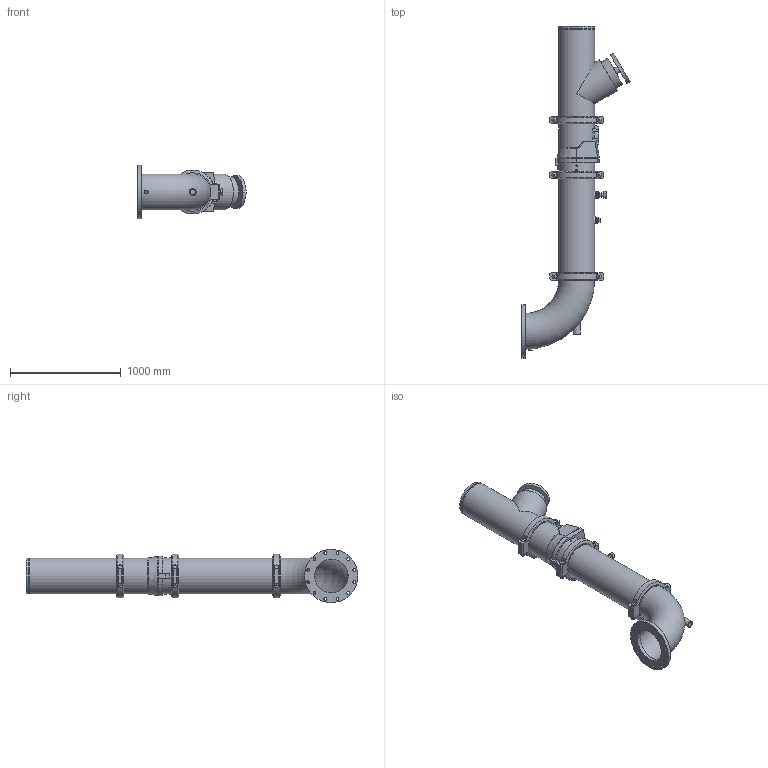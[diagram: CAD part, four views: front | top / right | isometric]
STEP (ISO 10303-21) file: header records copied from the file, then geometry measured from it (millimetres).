
FILE_DESCRIPTION(/* description */ ('VIC DVI PUMP DROP HORZ S/383 (OGSxFLG) (S/924-1.25)','CAx-IF Rec.Pracs.---Representation and Presentation of Product Manufacturing Information (PMI)---4.0---2014-10-13'),/* implementation_level */ '2;1');
FILE_NAME(/* name */ 'C:\Users\Vjadhav\AppData\Roaming\Autodesk\ApplicationPlugins\Victaulic.Temp\A892\Victaulic_IPS_Horizontal DVI_CL 150_Series 383 (OGSxFLG)_924 (1.25)_12.0x12.0 (300x300).stp',/* time_stamp */ '2022-02-28T15:46:33+05:00',/* author */ ('kkamble'),/* organization */ ('Victaulic'),/* preprocessor_version */ 'ST-DEVELOPER v17.2',/* originating_system */ 'Autodesk Inventor 2019',/* authorisation */ '');
FILE_SCHEMA (('AP242_MANAGED_MODEL_BASED_3D_ENGINEERING_MIM_LF { 1 0 10303 442 1 1 4 }'));
Length unit declared in the file: inch
Products named in the file (8): 383-924 (1.25)-12.0x12.0; Pipe-12.0x12.0; 789-12.0; 779-12.0; 924-10.0x01.25; 923-10.0x0.75; 100F-12.0; 077-12.0
Assembly tree (9 placements, depth 2):
  383-924 (1.25)-12.0x12.0
    Pipe-12.0x12.0
    789-12.0
    779-12.0
    077-12.0  x3
    924-10.0x01.25
    923-10.0x0.75
    100F-12.0
Bounding box: 977.9 x 3001.96 x 482.6 mm (x, y, z)
Volume: 69281339.3 mm3; surface area: 7981327 mm2
Topology: 9 solids, 16 shells, 454 faces, 1117 edges, 764 vertices
Faces by surface type: plane 268, cylinder 152, cone 17, torus 9, bspline 8
Full cylindrical faces by diameter (mm): 13.716 x4, 20.93 x1, 21.336 x2, 25.4 x24, 26.67 x4, 27.432 x6, 34.29 x1, 38.608 x1, 42.164 x1, 45.974 x4, 48.26 x1, 48.514 x1, 55.626 x2, 60.96 x2, 76.2 x1, 273.05 x1, 299.974 x1, 303.225 x2, 304.8 x3, 314.96 x3, 318.287 x7, 323.85 x18, 482.6 x1
Entity records: 11353 total; most frequent: CARTESIAN_POINT 2340, DIRECTION 1844, ORIENTED_EDGE 1654, EDGE_CURVE 827, AXIS2_PLACEMENT_3D 710, VERTEX_POINT 568, EDGE_LOOP 427, LINE 424
